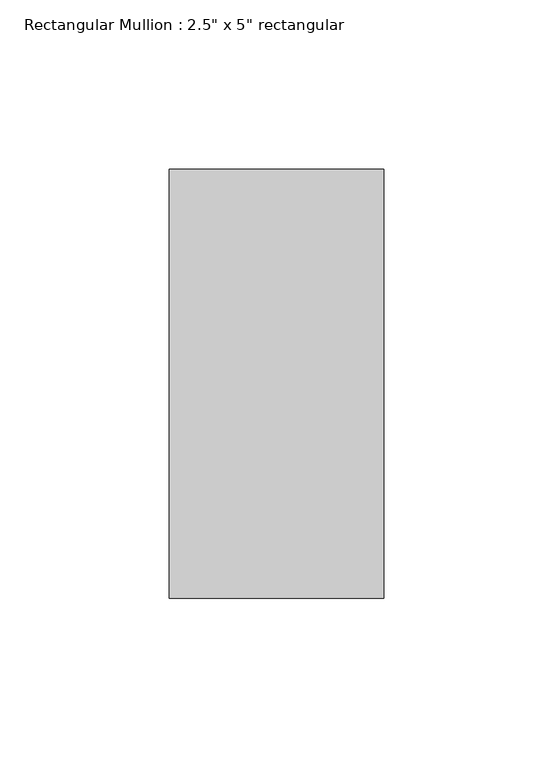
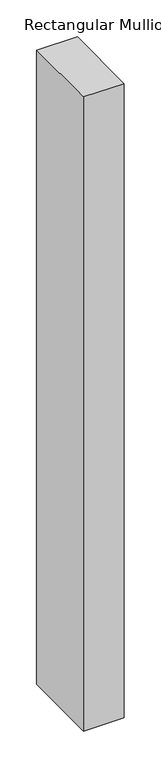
"""IFC4 building model written with IfcOpenShell, lengths in millimetres: member geometry."""

from ifc_helpers import new_model, si_unit, frame, origin, place, context, project, spatial, polyline, outline, extrude, source, transform, mapped, element, save


def member_78934672(model_context):
    return source(origin(), model_context, "Body", "SweptSolid", [
        extrude(outline(polyline([(0.0, 63.5), (0.0, -63.5), (-63.5, -63.5), (-63.5, 63.5), (0.0, 63.5)])), frame((0.0, 0.0, -1047.75), z_axis=(0.0, 0.0, 1.0), x_axis=(1.0, 0.0, 0.0)), (0.0, 0.0, 1.0), 1047.75),
    ])


if __name__ == "__main__":
    model = new_model("IFC4")
    model_context = context("Model", 3, world=origin())
    ifc_project = project(units=[si_unit("LENGTHUNIT", "METRE", prefix="MILLI")], contexts=[model_context])
    site = spatial("IfcSite", under=ifc_project)
    building = spatial("IfcBuilding", under=site)
    placement = place(None, origin())
    member_shape = member_78934672(model_context)
    element("IfcMember", 1, ObjectType="Rectangular Mullion : 2.5\" x 5\" rectangular", at=placement, inside=building, context=model_context, shape_type="MappedRepresentation", body=[
        mapped(member_shape, transform((0.0, 0.0, 0.0), x_axis=(1.0, 0.0, 0.0), y_axis=(0.0, 1.0, 0.0), z_axis=(0.0, 0.0, 1.0))),
    ])
    save(model, "model.ifc")
